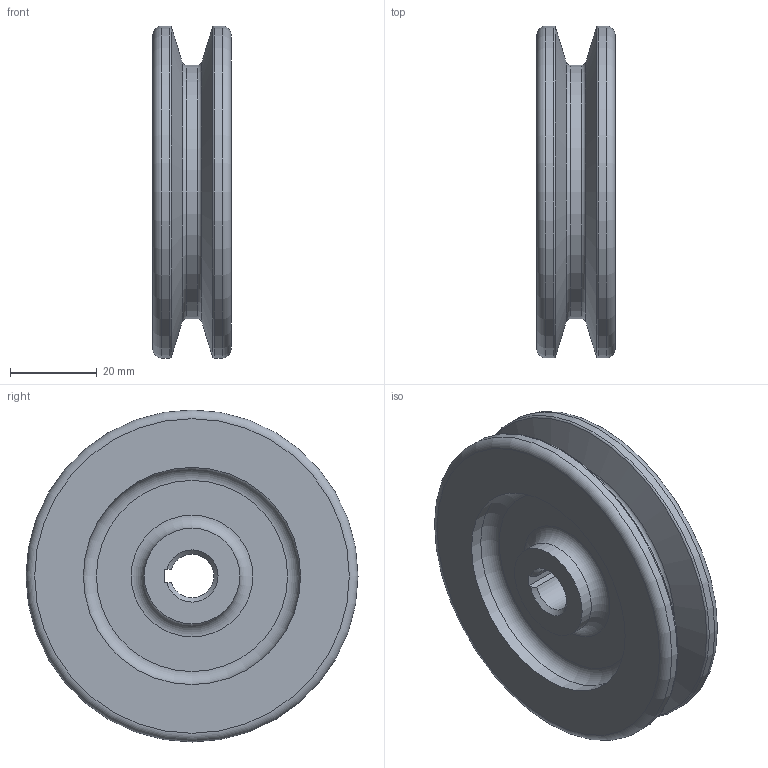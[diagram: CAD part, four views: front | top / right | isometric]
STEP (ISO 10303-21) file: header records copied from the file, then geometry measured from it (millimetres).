
FILE_DESCRIPTION(/* description */ (''),/* implementation_level */ '2;1');
FILE_NAME(/* name */ '',/* time_stamp */ '2025-10-01T16:42:34+09:00',/* author */ ('jhkim'),/* organization */ (''),/* preprocessor_version */ 'ST-DEVELOPER v20.1',/* originating_system */ 'Autodesk Inventor 2026',/* authorisation */ '');
FILE_SCHEMA (('AUTOMOTIVE_DESIGN { 1 0 10303 214 3 1 1 }'));
Length unit declared in the file: millimetre
Products named in the file (1): V 벨트 풀리
Bounding box: 18 x 76.4 x 76.4 mm (x, y, z)
Volume: 49104.5 mm3; surface area: 17935.6 mm2
Topology: 1 solids, 1 shells, 31 faces, 75 edges, 50 vertices
Faces by surface type: torus 10, plane 9, cylinder 8, cone 4
Full cylindrical faces by diameter (mm): 22 x2, 50 x2, 58.4 x1, 76.4 x2
Entity records: 984 total; most frequent: DIRECTION 187, CARTESIAN_POINT 165, ORIENTED_EDGE 150, AXIS2_PLACEMENT_3D 84, EDGE_CURVE 75, CIRCLE 52, VERTEX_POINT 50, EDGE_LOOP 37
